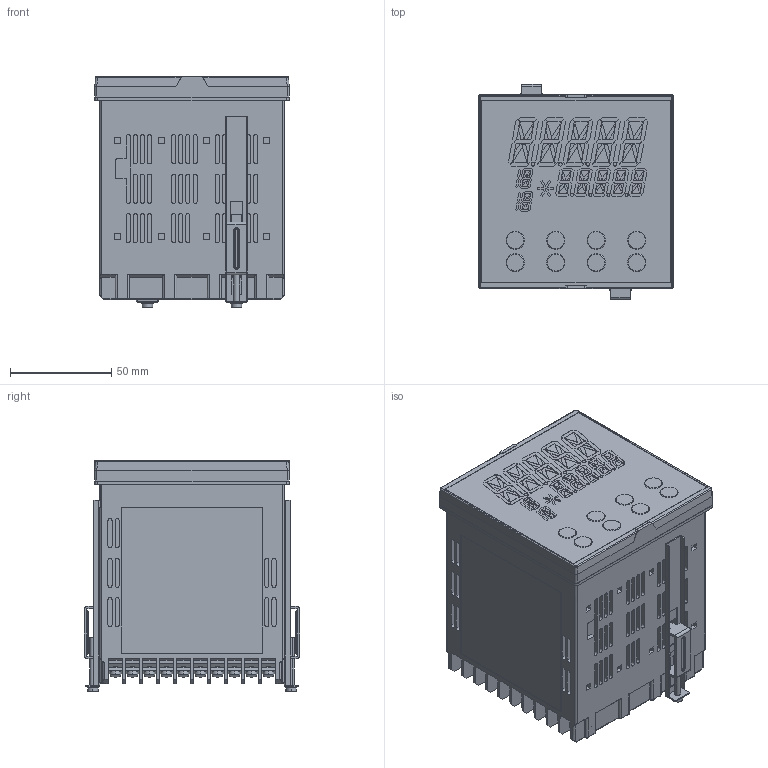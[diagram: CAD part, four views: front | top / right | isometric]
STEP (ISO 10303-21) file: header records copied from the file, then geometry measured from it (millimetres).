
FILE_DESCRIPTION (( 'STEP AP214' ), '1' );
FILE_NAME ('AS_PCA1_170123.STEP', '2017-01-23T06:10:21', ( '' ), ( '' ), 'SwSTEP 2.0', 'SolidWorks 2013', '' );
FILE_SCHEMA (( 'AUTOMOTIVE_DESIGN' ));
Length unit declared in the file: millimetre
Products named in the file (4): 取付金具_PCA1_170123; 僈僗働僢僩A_PCA1_170123; PCA1_170123; AS_PCA1_170123
Assembly tree (4 placements, depth 2):
  AS_PCA1_170123
    PCA1_170123
    僈僗働僢僩A_PCA1_170123
    取付金具_PCA1_170123  x2
Bounding box: 96 x 106.2 x 114.4 mm (x, y, z)
Volume: 858764 mm3; surface area: 97116.8 mm2
Topology: 4 solids, 16 shells, 2825 faces, 7104 edges, 4684 vertices
Faces by surface type: plane 2199, cylinder 562, torus 40, cone 16, bspline 8
Entity records: 90779 total; most frequent: CARTESIAN_POINT 14431, ORIENTED_EDGE 13688, DIRECTION 13303, EDGE_CURVE 6844, VECTOR 5693, LINE 5693, VERTEX_POINT 4517, AXIS2_PLACEMENT_3D 3805
